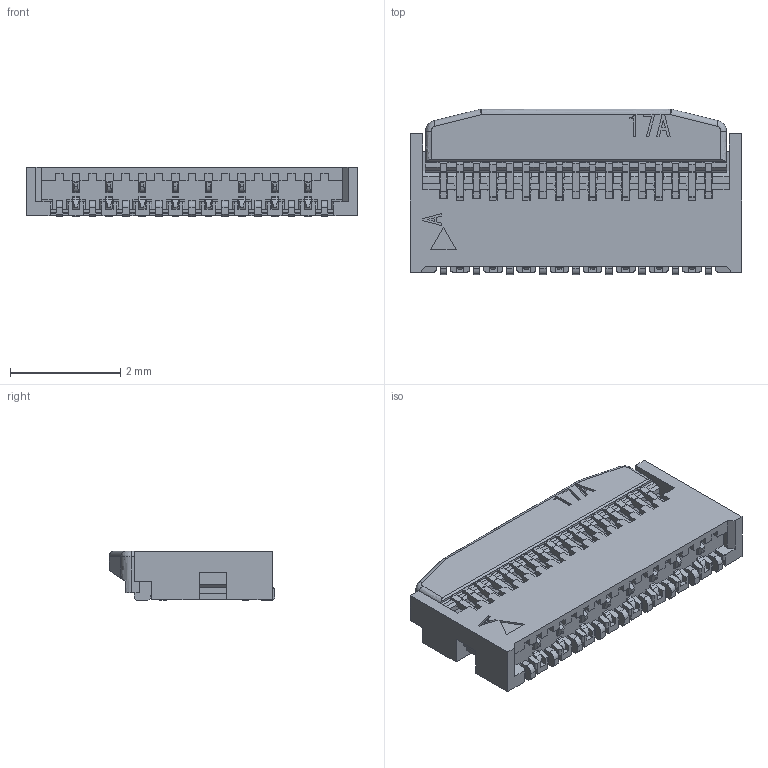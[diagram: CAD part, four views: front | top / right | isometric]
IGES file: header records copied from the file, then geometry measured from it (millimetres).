
Start section: SolidWorks IGES file using analytic representation for surfaces
Global section: file name: C:\Users\ieng2-006\Desktop\20527-017ExxxC ACT CLOSE IGES R5 ALL.IGS; native system: SolidWorks 2014; preprocessor: SolidWorks 2014; author: ieng2-006; date: 170425.103657; units: millimetre
Bounding box: 6 x 3 x 0.9 mm (x, y, z)
Surface area: 83.2 mm2 (no closed solid volume)
Topology: 0 solids, 0 shells, 1535 faces, 9901 edges, 9899 vertices
Faces by surface type: bspline 1296, revolution 239
